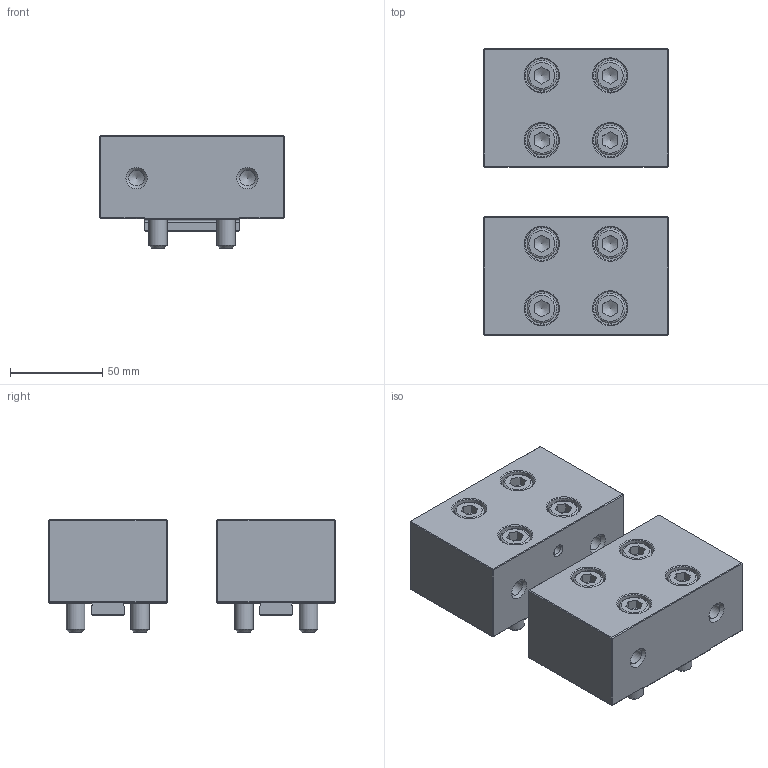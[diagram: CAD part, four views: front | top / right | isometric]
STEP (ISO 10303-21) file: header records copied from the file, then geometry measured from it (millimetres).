
FILE_DESCRIPTION(('STEP AP214'), '1');
FILE_NAME('BB.VS.100.22.040', '', ('UNSPECIFIED'), ('UNSPECIFIED'), 'C3D Converter', 'C3D Toolkit', '');
FILE_SCHEMA(('AUTOMOTIVE_DESIGN { 1 0 10303 214 3 1 1}'));
Length unit declared in the file: millimetre
Products named in the file (1): BB.VS.100.22.040 СБ
Bounding box: 100 x 155 x 61 mm (x, y, z)
Volume: 573227.9 mm3; surface area: 95167 mm2
Topology: 2 solids, 2 shells, 300 faces, 664 edges, 400 vertices
Faces by surface type: plane 172, cone 64, cylinder 48, torus 16
Full cylindrical faces by diameter (mm): 4.917 x4, 8.376 x8, 10 x8, 11 x8, 16 x8, 18 x8
Entity records: 11569 total; most frequent: CARTESIAN_POINT 3161, DIRECTION 1222, ORIENTED_EDGE 1040, EDGE_CURVE 520, AXIS2_PLACEMENT_3D 457, EDGE_LOOP 456, VERTEX_POINT 380, LINE 308
